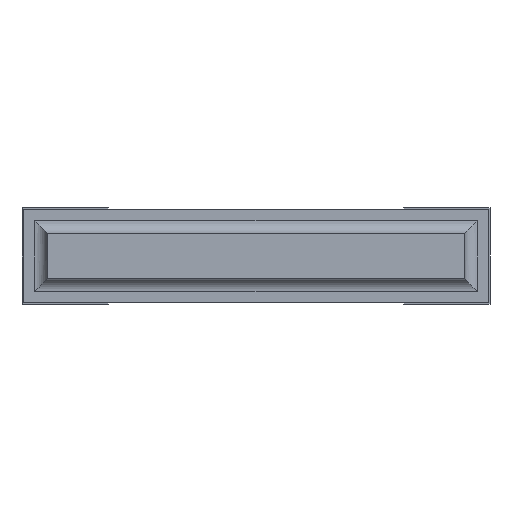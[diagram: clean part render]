
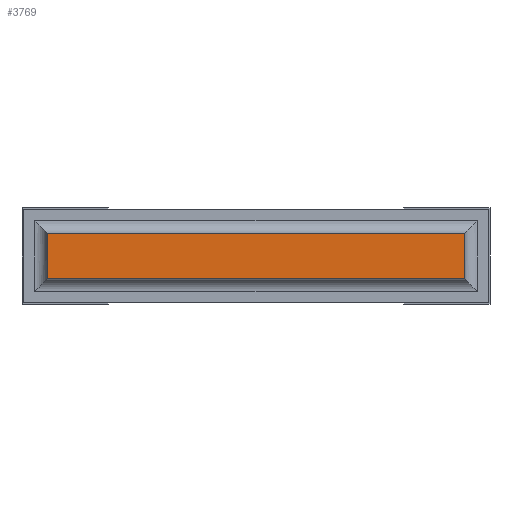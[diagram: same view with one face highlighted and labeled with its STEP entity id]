
A CAD part, front view. The second image highlights one B-rep face of the part: STEP entity #3769.
In plain terms, the highlighted planar face has unit normal (0, -1, 0).
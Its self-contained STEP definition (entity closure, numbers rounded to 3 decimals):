
#155=FACE_OUTER_BOUND('',#389,.T.);
#389=EDGE_LOOP('',(#2527,#2528,#2529,#2530));
#629=LINE('',#5375,#1121);
#638=LINE('',#5403,#1130);
#645=LINE('',#5420,#1137);
#646=LINE('',#5422,#1138);
#1121=VECTOR('',#4315,10.);
#1130=VECTOR('',#4340,10.);
#1137=VECTOR('',#4357,10.);
#1138=VECTOR('',#4360,10.);
#1613=VERTEX_POINT('',#5372);
#1614=VERTEX_POINT('',#5374);
#1625=VERTEX_POINT('',#5402);
#1630=VERTEX_POINT('',#5418);
#1957=EDGE_CURVE('',#1614,#1613,#629,.T.);
#1970=EDGE_CURVE('',#1614,#1625,#638,.T.);
#1979=EDGE_CURVE('',#1630,#1613,#645,.T.);
#1980=EDGE_CURVE('',#1625,#1630,#646,.T.);
#2527=ORIENTED_EDGE('',*,*,#1979,.F.);
#2528=ORIENTED_EDGE('',*,*,#1980,.F.);
#2529=ORIENTED_EDGE('',*,*,#1970,.F.);
#2530=ORIENTED_EDGE('',*,*,#1957,.T.);
#3579=PLANE('',#4041);
#3769=ADVANCED_FACE('',(#155),#3579,.T.);
#4041=AXIS2_PLACEMENT_3D('',#5421,#4358,#4359);
#4315=DIRECTION('',(0.,0.,-1.));
#4340=DIRECTION('',(1.,0.,0.));
#4357=DIRECTION('',(-1.,0.,0.));
#4358=DIRECTION('center_axis',(0.,-1.,0.));
#4359=DIRECTION('ref_axis',(0.,0.,-1.));
#4360=DIRECTION('',(0.,0.,-1.));
#5372=CARTESIAN_POINT('',(0.1,0.,0.16));
#5374=CARTESIAN_POINT('',(0.1,0.,0.34));
#5375=CARTESIAN_POINT('',(0.1,0.,0.34));
#5402=CARTESIAN_POINT('',(1.75,0.,0.34));
#5403=CARTESIAN_POINT('',(0.1,0.,0.34));
#5418=CARTESIAN_POINT('',(1.75,0.,0.16));
#5420=CARTESIAN_POINT('',(1.75,0.,0.16));
#5421=CARTESIAN_POINT('Origin',(1.75,0.,0.25));
#5422=CARTESIAN_POINT('',(1.75,0.,0.34));
